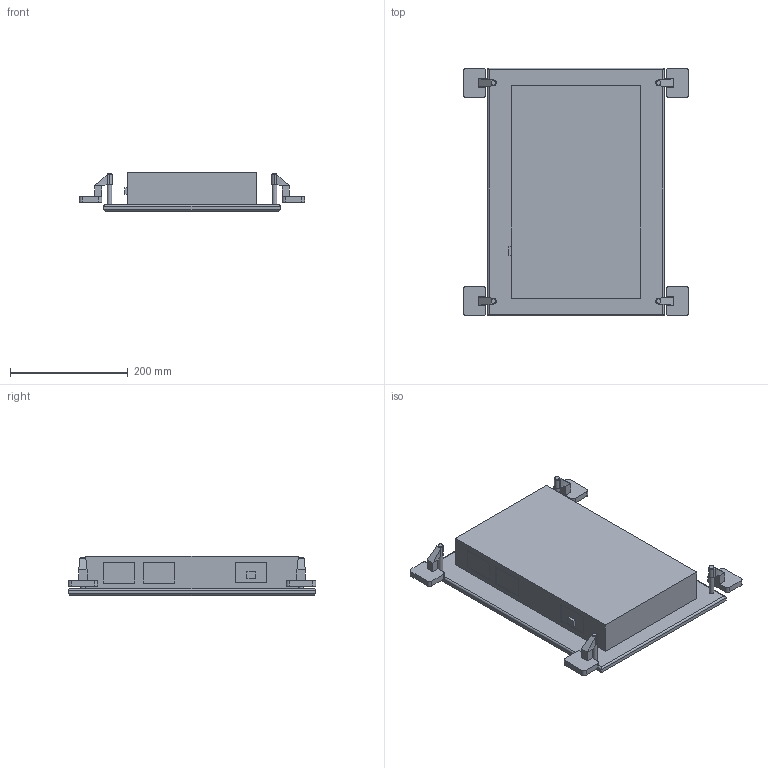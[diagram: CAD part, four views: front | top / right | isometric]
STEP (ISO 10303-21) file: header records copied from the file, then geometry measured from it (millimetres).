
FILE_DESCRIPTION(/* description */ (''),/* implementation_level */ '2;1');
FILE_NAME(/* name */ 'DE Plan 400.stp',/* time_stamp */ '2024-08-21T15:49:50+02:00',/* author */ ('d.streicher'),/* organization */ (''),/* preprocessor_version */ 'ST-DEVELOPER v20',/* originating_system */ 'Autodesk Inventor 2025',/* authorisation */ '');
FILE_SCHEMA (('AUTOMOTIVE_DESIGN { 1 0 10303 214 3 1 1 }'));
Length unit declared in the file: millimetre
Products named in the file (1): DE Plan 400
Bounding box: 382 x 420 x 67 mm (x, y, z)
Volume: 5953424.1 mm3; surface area: 364777.5 mm2
Topology: 1 solids, 1 shells, 167 faces, 418 edges, 300 vertices
Faces by surface type: plane 123, cylinder 36, bspline 8
Full cylindrical faces by diameter (mm): 8 x12
Entity records: 5143 total; most frequent: CARTESIAN_POINT 980, DIRECTION 788, ORIENTED_EDGE 784, EDGE_CURVE 392, LINE 320, VECTOR 320, VERTEX_POINT 244, AXIS2_PLACEMENT_3D 234
